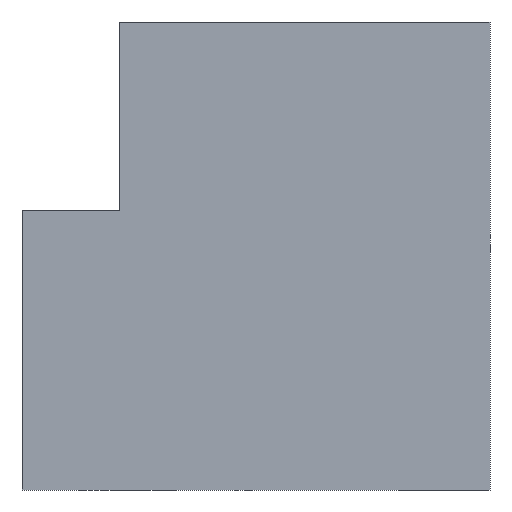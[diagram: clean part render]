
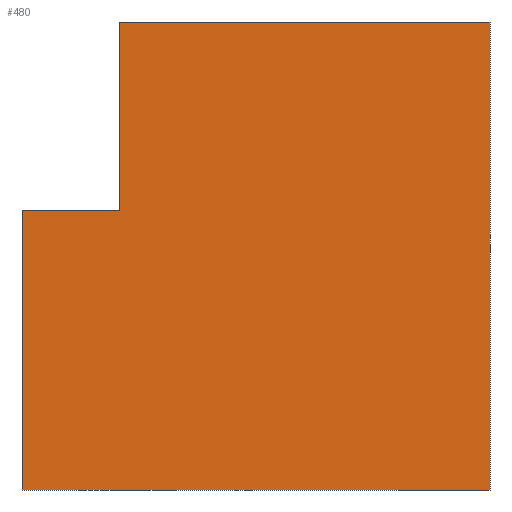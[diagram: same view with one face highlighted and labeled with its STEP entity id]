
A CAD part, front view. The second image highlights one B-rep face of the part: STEP entity #480.
In plain terms, the highlighted planar face has unit normal (0, -1, 0).
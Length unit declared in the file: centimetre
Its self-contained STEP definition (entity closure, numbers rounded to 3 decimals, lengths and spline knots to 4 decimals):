
#21 = DIRECTION ( 'NONE',  ( 1., 0., 0. ) ) ;
#28 = PLANE ( 'NONE',  #690 ) ;
#35 = ORIENTED_EDGE ( 'NONE', *, *, #731, .T. ) ;
#49 = VECTOR ( 'NONE', #307, 100. ) ;
#77 = VECTOR ( 'NONE', #347, 100. ) ;
#78 = VERTEX_POINT ( 'NONE', #204 ) ;
#90 = CARTESIAN_POINT ( 'NONE',  ( 0., 0., 0. ) ) ;
#112 = VECTOR ( 'NONE', #21, 100. ) ;
#115 = ORIENTED_EDGE ( 'NONE', *, *, #118, .T. ) ;
#118 = EDGE_CURVE ( 'NONE', #78, #395, #585, .T. ) ;
#119 = EDGE_CURVE ( 'NONE', #512, #130, #638, .T. ) ;
#128 = VERTEX_POINT ( 'NONE', #613 ) ;
#130 = VERTEX_POINT ( 'NONE', #435 ) ;
#133 = LINE ( 'NONE', #577, #112 ) ;
#143 = DIRECTION ( 'NONE',  ( 1., 0., 0. ) ) ;
#164 = VECTOR ( 'NONE', #421, 100. ) ;
#176 = FACE_OUTER_BOUND ( 'NONE', #254, .T. ) ;
#202 = DIRECTION ( 'NONE',  ( 0., 0., -1. ) ) ;
#204 = CARTESIAN_POINT ( 'NONE',  ( 0., 0., 597.2643 ) ) ;
#254 = EDGE_LOOP ( 'NONE', ( #539, #35, #115, #458, #330, #523 ) ) ;
#259 = CARTESIAN_POINT ( 'NONE',  ( 0., 0., 1000. ) ) ;
#260 = CARTESIAN_POINT ( 'NONE',  ( 0., 0., 597.2643 ) ) ;
#289 = DIRECTION ( 'NONE',  ( 0., 1., 0. ) ) ;
#307 = DIRECTION ( 'NONE',  ( 0., 0., -1. ) ) ;
#330 = ORIENTED_EDGE ( 'NONE', *, *, #602, .F. ) ;
#335 = VERTEX_POINT ( 'NONE', #599 ) ;
#347 = DIRECTION ( 'NONE',  ( 0., 0., -1. ) ) ;
#354 = CARTESIAN_POINT ( 'NONE',  ( 0., 0., 1000. ) ) ;
#363 = LINE ( 'NONE', #90, #597 ) ;
#395 = VERTEX_POINT ( 'NONE', #652 ) ;
#421 = DIRECTION ( 'NONE',  ( -1., 0., 0. ) ) ;
#435 = CARTESIAN_POINT ( 'NONE',  ( 209.0773, 0., 597.2643 ) ) ;
#458 = ORIENTED_EDGE ( 'NONE', *, *, #721, .T. ) ;
#462 = DIRECTION ( 'NONE',  ( 0., 0., 1. ) ) ;
#480 = ADVANCED_FACE ( 'NONE', ( #176 ), #28, .F. ) ;
#483 = LINE ( 'NONE', #601, #735 ) ;
#485 = CARTESIAN_POINT ( 'NONE',  ( 209.0773, 0., 597.2643 ) ) ;
#503 = EDGE_CURVE ( 'NONE', #512, #128, #133, .T. ) ;
#512 = VERTEX_POINT ( 'NONE', #667 ) ;
#523 = ORIENTED_EDGE ( 'NONE', *, *, #503, .F. ) ;
#539 = ORIENTED_EDGE ( 'NONE', *, *, #119, .T. ) ;
#577 = CARTESIAN_POINT ( 'NONE',  ( 0., 0., 1000. ) ) ;
#585 = LINE ( 'NONE', #259, #49 ) ;
#593 = LINE ( 'NONE', #260, #164 ) ;
#597 = VECTOR ( 'NONE', #143, 100. ) ;
#599 = CARTESIAN_POINT ( 'NONE',  ( 1000., 0., 0. ) ) ;
#601 = CARTESIAN_POINT ( 'NONE',  ( 1000., 0., 1000. ) ) ;
#602 = EDGE_CURVE ( 'NONE', #128, #335, #483, .T. ) ;
#613 = CARTESIAN_POINT ( 'NONE',  ( 1000., 0., 1000. ) ) ;
#638 = LINE ( 'NONE', #485, #77 ) ;
#652 = CARTESIAN_POINT ( 'NONE',  ( 0., 0., 0. ) ) ;
#667 = CARTESIAN_POINT ( 'NONE',  ( 209.0773, 0., 1000. ) ) ;
#690 = AXIS2_PLACEMENT_3D ( 'NONE', #354, #289, #462 ) ;
#721 = EDGE_CURVE ( 'NONE', #395, #335, #363, .T. ) ;
#731 = EDGE_CURVE ( 'NONE', #130, #78, #593, .T. ) ;
#735 = VECTOR ( 'NONE', #202, 100. ) ;
